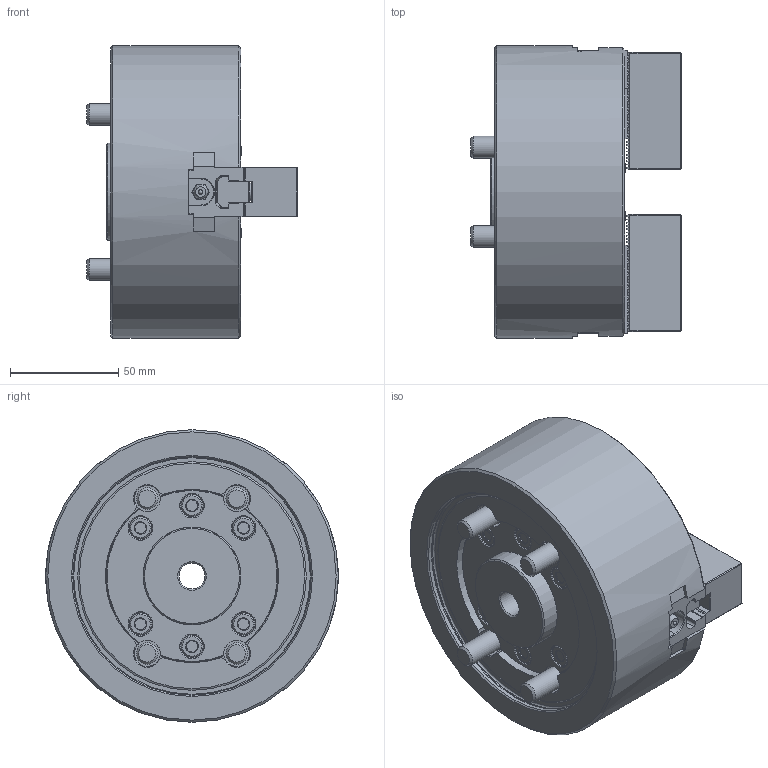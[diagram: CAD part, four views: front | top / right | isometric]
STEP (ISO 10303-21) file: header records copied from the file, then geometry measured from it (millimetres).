
FILE_DESCRIPTION (( 'STEP AP214' ), '1' );
FILE_NAME ('DT1_BT205_OUTSIDE_VIEW_HOL.STEP', '2024-05-08T23:46:14', ( '' ), ( '' ), 'SwSTEP 2.0', 'SolidWorks 2022', '' );
FILE_SCHEMA (( 'AUTOMOTIVE_DESIGN' ));
Length unit declared in the file: millimetre
Products named in the file (9): DT1_BT205_TNUT^DT1-BT205_ﾃﾞﾌｫﾙﾄ; DT1_BT205_DRAWNUT^DT1-BT205_ﾃﾞﾌｫﾙﾄ; DT1_BT205_M10x60^DT1-BT205_ﾃﾞﾌｫﾙﾄ; DT1_BT205_COVER^DT1-BT205_ﾃﾞﾌｫﾙﾄ; DT1_BT205_M8x20^DT1-BT205_ﾃﾞﾌｫﾙﾄ; DT1_BT205_SOFTJAW^DT1-BT205_ﾃﾞﾌｫﾙﾄ; DT1_BT205_BASE^DT1-BT205_ﾃﾞﾌｫﾙﾄ; DT1_BT205_M4x8^DT1-BT205_ﾃﾞﾌｫﾙﾄ; DT1_BT205_OUTSIDE_VIEW_HOL
Assembly tree (19 placements, depth 2):
  DT1_BT205_OUTSIDE_VIEW_HOL
    DT1_BT205_SOFTJAW^DT1-BT205_ﾃﾞﾌｫﾙﾄ  x2
    DT1_BT205_TNUT^DT1-BT205_ﾃﾞﾌｫﾙﾄ  x2
    DT1_BT205_DRAWNUT^DT1-BT205_ﾃﾞﾌｫﾙﾄ
    DT1_BT205_COVER^DT1-BT205_ﾃﾞﾌｫﾙﾄ
    DT1_BT205_BASE^DT1-BT205_ﾃﾞﾌｫﾙﾄ
    DT1_BT205_M4x8^DT1-BT205_ﾃﾞﾌｫﾙﾄ  x4
    DT1_BT205_M8x20^DT1-BT205_ﾃﾞﾌｫﾙﾄ  x4
    DT1_BT205_M10x60^DT1-BT205_ﾃﾞﾌｫﾙﾄ  x4
Bounding box: 97 x 135 x 135 mm (x, y, z)
Volume: 815388.2 mm3; surface area: 136873.8 mm2
Topology: 19 solids, 27 shells, 2493 faces, 6913 edges, 4559 vertices
Faces by surface type: plane 1772, cylinder 458, cone 122, bspline 122, torus 15, sphere 4
Full cylindrical faces by diameter (mm): 3.3 x4, 4 x4, 4.5 x4, 6.8 x4, 7.5 x4, 8 x4, 8.5 x8, 10 x4, 10.22 x6, 10.5 x6, 12 x5, 13.27 x4, 13.5 x4, 16.27 x4, 17 x4, 33 x1, 36 x2, 40.5 x1, 43.5 x1, 45 x2, 110 x1, 110.8 x1, 135 x1
Entity records: 67658 total; most frequent: CARTESIAN_POINT 18139, ORIENTED_EDGE 10856, DIRECTION 8979, EDGE_CURVE 5428, VECTOR 4131, LINE 4131, VERTEX_POINT 3648, AXIS2_PLACEMENT_3D 2424
